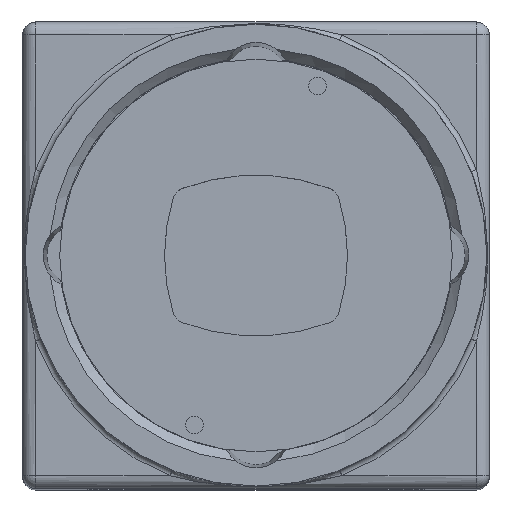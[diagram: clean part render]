
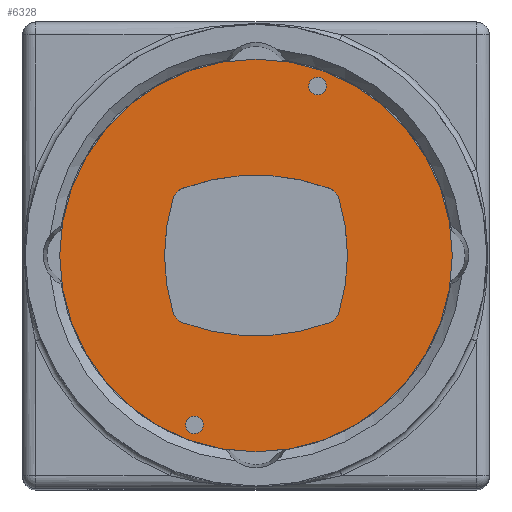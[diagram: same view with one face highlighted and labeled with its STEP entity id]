
A CAD part, top view. The second image highlights one B-rep face of the part: STEP entity #6328.
In plain terms, the highlighted planar face has unit normal (0, 0, 1).
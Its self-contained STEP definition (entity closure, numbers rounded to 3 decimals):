
#6328 = ADVANCED_FACE( '', ( #13287, #13288, #13289, #13290 ), #13291, .F. );
#13287 = FACE_BOUND( '', #22610, .T. );
#13288 = FACE_BOUND( '', #22611, .T. );
#13289 = FACE_BOUND( '', #22612, .T. );
#13290 = FACE_OUTER_BOUND( '', #22613, .T. );
#13291 = PLANE( '', #22614 );
#22610 = EDGE_LOOP( '', ( #41498 ) );
#22611 = EDGE_LOOP( '', ( #41499 ) );
#22612 = EDGE_LOOP( '', ( #41500, #41501, #41502, #41503, #41504, #41505, #41506, #41507 ) );
#22613 = EDGE_LOOP( '', ( #41508 ) );
#22614 = AXIS2_PLACEMENT_3D( '', #41509, #41510, #41511 );
#41498 = ORIENTED_EDGE( '', *, *, #50754, .T. );
#41499 = ORIENTED_EDGE( '', *, *, #47048, .T. );
#41500 = ORIENTED_EDGE( '', *, *, #46874, .T. );
#41501 = ORIENTED_EDGE( '', *, *, #47900, .T. );
#41502 = ORIENTED_EDGE( '', *, *, #47809, .T. );
#41503 = ORIENTED_EDGE( '', *, *, #44429, .T. );
#41504 = ORIENTED_EDGE( '', *, *, #47570, .T. );
#41505 = ORIENTED_EDGE( '', *, *, #45482, .T. );
#41506 = ORIENTED_EDGE( '', *, *, #46819, .T. );
#41507 = ORIENTED_EDGE( '', *, *, #46767, .T. );
#41508 = ORIENTED_EDGE( '', *, *, #49953, .F. );
#41509 = CARTESIAN_POINT( '', ( 1.907, 5.239, 5.8 ) );
#41510 = DIRECTION( '', ( 0., 0., -1. ) );
#41511 = DIRECTION( '', ( -1., 0., 0. ) );
#44429 = EDGE_CURVE( '', #53032, #53030, #53033, .T. );
#45482 = EDGE_CURVE( '', #54809, #54807, #54810, .T. );
#46767 = EDGE_CURVE( '', #56862, #56860, #56863, .T. );
#46819 = EDGE_CURVE( '', #54807, #56862, #56941, .T. );
#46874 = EDGE_CURVE( '', #56860, #57023, #57025, .T. );
#47048 = EDGE_CURVE( '', #57288, #57288, #57289, .T. );
#47570 = EDGE_CURVE( '', #53030, #54809, #58059, .T. );
#47809 = EDGE_CURVE( '', #58397, #53032, #58398, .T. );
#47900 = EDGE_CURVE( '', #57023, #58397, #58526, .T. );
#49953 = EDGE_CURVE( '', #61240, #61240, #61241, .T. );
#50754 = EDGE_CURVE( '', #62124, #62124, #62125, .T. );
#53030 = VERTEX_POINT( '', #65426 );
#53032 = VERTEX_POINT( '', #65429 );
#53033 = CIRCLE( '', #65430, 1. );
#54807 = VERTEX_POINT( '', #68053 );
#54809 = VERTEX_POINT( '', #68056 );
#54810 = CIRCLE( '', #68057, 1. );
#56860 = VERTEX_POINT( '', #71090 );
#56862 = VERTEX_POINT( '', #71093 );
#56863 = CIRCLE( '', #71094, 1. );
#56941 = CIRCLE( '', #71207, 13. );
#57023 = VERTEX_POINT( '', #71317 );
#57025 = CIRCLE( '', #71320, 12. );
#57288 = VERTEX_POINT( '', #71710 );
#57289 = CIRCLE( '', #71711, 0.55 );
#58059 = CIRCLE( '', #72851, 12. );
#58397 = VERTEX_POINT( '', #73379 );
#58398 = CIRCLE( '', #73380, 13. );
#58526 = CIRCLE( '', #73586, 1. );
#61240 = VERTEX_POINT( '', #78110 );
#61241 = CIRCLE( '', #78111, 12.2 );
#62124 = VERTEX_POINT( '', #79426 );
#62125 = CIRCLE( '', #79427, 0.55 );
#65426 = CARTESIAN_POINT( '', ( -5.153, -3.537, 5.8 ) );
#65429 = CARTESIAN_POINT( '', ( -4.548, -4.179, 5.8 ) );
#65430 = AXIS2_PLACEMENT_3D( '', #81213, #81214, #81215 );
#68053 = CARTESIAN_POINT( '', ( -4.548, 4.179, 5.8 ) );
#68056 = CARTESIAN_POINT( '', ( -5.153, 3.537, 5.8 ) );
#68057 = AXIS2_PLACEMENT_3D( '', #82466, #82467, #82468 );
#71090 = CARTESIAN_POINT( '', ( 5.153, 3.537, 5.8 ) );
#71093 = CARTESIAN_POINT( '', ( 4.548, 4.179, 5.8 ) );
#71094 = AXIS2_PLACEMENT_3D( '', #83991, #83992, #83993 );
#71207 = AXIS2_PLACEMENT_3D( '', #84047, #84048, #84049 );
#71317 = CARTESIAN_POINT( '', ( 5.153, -3.537, 5.8 ) );
#71320 = AXIS2_PLACEMENT_3D( '', #84115, #84116, #84117 );
#71710 = CARTESIAN_POINT( '', ( 3.831, 9.975, 5.8 ) );
#71711 = AXIS2_PLACEMENT_3D( '', #84317, #84318, #84319 );
#72851 = AXIS2_PLACEMENT_3D( '', #84942, #84943, #84944 );
#73379 = CARTESIAN_POINT( '', ( 4.548, -4.179, 5.8 ) );
#73380 = AXIS2_PLACEMENT_3D( '', #85216, #85217, #85218 );
#73586 = AXIS2_PLACEMENT_3D( '', #85319, #85320, #85321 );
#78110 = CARTESIAN_POINT( '', ( -12.2, 0., 5.8 ) );
#78111 = AXIS2_PLACEMENT_3D( '', #87450, #87451, #87452 );
#79426 = CARTESIAN_POINT( '', ( -3.831, -11.075, 5.8 ) );
#79427 = AXIS2_PLACEMENT_3D( '', #88010, #88011, #88012 );
#81213 = CARTESIAN_POINT( '', ( -4.198, -3.242, 5.8 ) );
#81214 = DIRECTION( '', ( 0., 0., -1. ) );
#81215 = DIRECTION( '', ( -1., 0., 0. ) );
#82466 = CARTESIAN_POINT( '', ( -4.198, 3.242, 5.8 ) );
#82467 = DIRECTION( '', ( 0., 0., -1. ) );
#82468 = DIRECTION( '', ( -1., 0., 0. ) );
#83991 = CARTESIAN_POINT( '', ( 4.198, 3.242, 5.8 ) );
#83992 = DIRECTION( '', ( 0., 0., -1. ) );
#83993 = DIRECTION( '', ( -1., 0., 0. ) );
#84047 = CARTESIAN_POINT( '', ( 0., -8., 5.8 ) );
#84048 = DIRECTION( '', ( 0., 0., -1. ) );
#84049 = DIRECTION( '', ( 1., 0., 0. ) );
#84115 = CARTESIAN_POINT( '', ( -6.314, 0., 5.8 ) );
#84116 = DIRECTION( '', ( 0., 0., -1. ) );
#84117 = DIRECTION( '', ( -1., 0., 0. ) );
#84317 = CARTESIAN_POINT( '', ( 3.831, 10.525, 5.8 ) );
#84318 = DIRECTION( '', ( 0., 0., -1. ) );
#84319 = DIRECTION( '', ( 0., -1., 0. ) );
#84942 = CARTESIAN_POINT( '', ( 6.314, 0., 5.8 ) );
#84943 = DIRECTION( '', ( 0., 0., -1. ) );
#84944 = DIRECTION( '', ( 1., 0., 0. ) );
#85216 = CARTESIAN_POINT( '', ( 0., 8., 5.8 ) );
#85217 = DIRECTION( '', ( 0., 0., -1. ) );
#85218 = DIRECTION( '', ( 1., 0., 0. ) );
#85319 = CARTESIAN_POINT( '', ( 4.198, -3.242, 5.8 ) );
#85320 = DIRECTION( '', ( 0., 0., -1. ) );
#85321 = DIRECTION( '', ( -1., 0., 0. ) );
#87450 = CARTESIAN_POINT( '', ( 0., 0., 5.8 ) );
#87451 = DIRECTION( '', ( 0., 0., -1. ) );
#87452 = DIRECTION( '', ( -1., 0., 0. ) );
#88010 = CARTESIAN_POINT( '', ( -3.831, -10.525, 5.8 ) );
#88011 = DIRECTION( '', ( 0., 0., -1. ) );
#88012 = DIRECTION( '', ( 0., -1., 0. ) );
